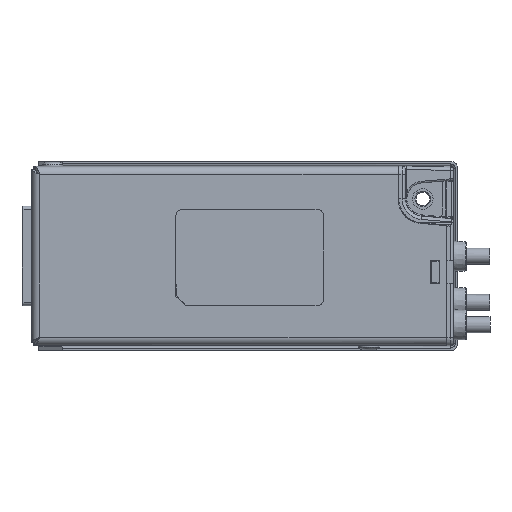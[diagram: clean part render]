
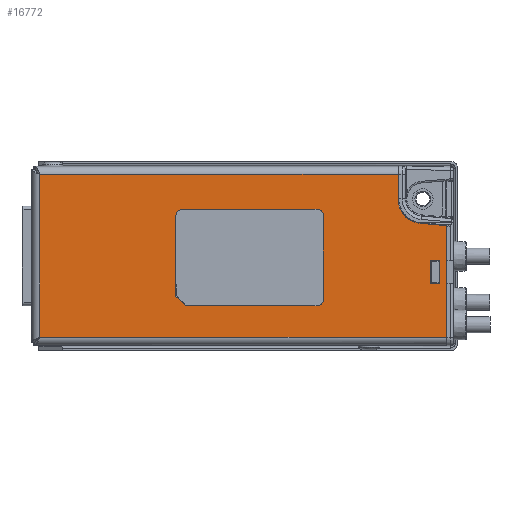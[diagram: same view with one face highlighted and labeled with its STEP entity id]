
A CAD part, top view. The second image highlights one B-rep face of the part: STEP entity #16772.
In plain terms, the highlighted planar face has unit normal (0, 0, 1).
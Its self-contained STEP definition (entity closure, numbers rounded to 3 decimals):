
#959=FACE_BOUND('',#3392,.T.);
#960=FACE_BOUND('',#3393,.T.);
#1482=CIRCLE('',#18302,2.);
#1483=CIRCLE('',#18305,2.);
#1484=CIRCLE('',#18308,2.);
#1501=CIRCLE('',#18416,7.5);
#2412=FACE_OUTER_BOUND('',#3391,.T.);
#3391=EDGE_LOOP('',(#14312,#14313,#14314,#14315,#14316,#14317,#14318,#14319));
#3392=EDGE_LOOP('',(#14320,#14321,#14322,#14323));
#3393=EDGE_LOOP('',(#14324,#14325,#14326,#14327,#14328,#14329,#14330,#14331,
#14332,#14333));
#4557=LINE('',#30213,#5925);
#4560=LINE('',#30219,#5928);
#4562=LINE('',#30224,#5930);
#4566=LINE('',#30233,#5934);
#4569=LINE('',#30241,#5937);
#4609=LINE('',#30327,#5977);
#4612=LINE('',#30331,#5980);
#4722=LINE('',#30596,#6090);
#4725=LINE('',#30692,#6093);
#4729=LINE('',#30780,#6097);
#4772=LINE('',#31061,#6140);
#4773=LINE('',#31106,#6141);
#4774=LINE('',#31108,#6142);
#4775=LINE('',#31111,#6143);
#4776=LINE('',#31114,#6144);
#4777=LINE('',#31116,#6145);
#4778=LINE('',#31118,#6146);
#4779=LINE('',#31119,#6147);
#5925=VECTOR('',#22536,10.);
#5928=VECTOR('',#22541,10.);
#5930=VECTOR('',#22545,10.);
#5934=VECTOR('',#22555,10.);
#5937=VECTOR('',#22564,10.);
#5977=VECTOR('',#22624,10.);
#5980=VECTOR('',#22629,10.);
#6090=VECTOR('',#22835,10.);
#6093=VECTOR('',#22842,10.);
#6097=VECTOR('',#22848,10.);
#6140=VECTOR('',#22979,10.);
#6141=VECTOR('',#22986,10.);
#6142=VECTOR('',#22987,10.);
#6143=VECTOR('',#22990,10.);
#6144=VECTOR('',#22991,10.);
#6145=VECTOR('',#22992,10.);
#6146=VECTOR('',#22993,10.);
#6147=VECTOR('',#22994,10.);
#7415=VERTEX_POINT('',#30209);
#7416=VERTEX_POINT('',#30211);
#7417=VERTEX_POINT('',#30215);
#7418=VERTEX_POINT('',#30217);
#7419=VERTEX_POINT('',#30221);
#7420=VERTEX_POINT('',#30223);
#7421=VERTEX_POINT('',#30227);
#7422=VERTEX_POINT('',#30231);
#7423=VERTEX_POINT('',#30235);
#7424=VERTEX_POINT('',#30239);
#7454=VERTEX_POINT('',#30309);
#7523=VERTEX_POINT('',#30582);
#7532=VERTEX_POINT('',#30691);
#7536=VERTEX_POINT('',#30779);
#7566=VERTEX_POINT('',#31059);
#7568=VERTEX_POINT('',#31105);
#7569=VERTEX_POINT('',#31107);
#7570=VERTEX_POINT('',#31109);
#7571=VERTEX_POINT('',#31112);
#7572=VERTEX_POINT('',#31113);
#7573=VERTEX_POINT('',#31115);
#7574=VERTEX_POINT('',#31117);
#9596=EDGE_CURVE('',#7416,#7415,#4557,.T.);
#9599=EDGE_CURVE('',#7418,#7416,#4560,.T.);
#9601=EDGE_CURVE('',#7419,#7420,#4562,.T.);
#9604=EDGE_CURVE('',#7421,#7419,#1482,.T.);
#9606=EDGE_CURVE('',#7422,#7421,#4566,.T.);
#9608=EDGE_CURVE('',#7423,#7422,#1483,.T.);
#9610=EDGE_CURVE('',#7424,#7423,#4569,.T.);
#9611=EDGE_CURVE('',#7415,#7424,#1484,.T.);
#9654=EDGE_CURVE('',#7417,#7418,#4609,.T.);
#9657=EDGE_CURVE('',#7420,#7417,#4612,.T.);
#9771=EDGE_CURVE('',#7523,#7454,#4722,.T.);
#9781=EDGE_CURVE('',#7532,#7523,#4725,.T.);
#9789=EDGE_CURVE('',#7536,#7532,#4729,.T.);
#9856=EDGE_CURVE('',#7566,#7454,#4772,.T.);
#9858=EDGE_CURVE('',#7568,#7566,#4773,.T.);
#9859=EDGE_CURVE('',#7568,#7569,#4774,.T.);
#9860=EDGE_CURVE('',#7569,#7570,#1501,.T.);
#9861=EDGE_CURVE('',#7570,#7536,#4775,.T.);
#9862=EDGE_CURVE('',#7571,#7572,#4776,.T.);
#9863=EDGE_CURVE('',#7572,#7573,#4777,.T.);
#9864=EDGE_CURVE('',#7573,#7574,#4778,.T.);
#9865=EDGE_CURVE('',#7574,#7571,#4779,.T.);
#14312=ORIENTED_EDGE('',*,*,#9781,.T.);
#14313=ORIENTED_EDGE('',*,*,#9771,.T.);
#14314=ORIENTED_EDGE('',*,*,#9856,.F.);
#14315=ORIENTED_EDGE('',*,*,#9858,.F.);
#14316=ORIENTED_EDGE('',*,*,#9859,.T.);
#14317=ORIENTED_EDGE('',*,*,#9860,.T.);
#14318=ORIENTED_EDGE('',*,*,#9861,.T.);
#14319=ORIENTED_EDGE('',*,*,#9789,.T.);
#14320=ORIENTED_EDGE('',*,*,#9862,.T.);
#14321=ORIENTED_EDGE('',*,*,#9863,.T.);
#14322=ORIENTED_EDGE('',*,*,#9864,.T.);
#14323=ORIENTED_EDGE('',*,*,#9865,.T.);
#14324=ORIENTED_EDGE('',*,*,#9601,.F.);
#14325=ORIENTED_EDGE('',*,*,#9604,.F.);
#14326=ORIENTED_EDGE('',*,*,#9606,.F.);
#14327=ORIENTED_EDGE('',*,*,#9608,.F.);
#14328=ORIENTED_EDGE('',*,*,#9610,.F.);
#14329=ORIENTED_EDGE('',*,*,#9611,.F.);
#14330=ORIENTED_EDGE('',*,*,#9596,.F.);
#14331=ORIENTED_EDGE('',*,*,#9599,.F.);
#14332=ORIENTED_EDGE('',*,*,#9654,.F.);
#14333=ORIENTED_EDGE('',*,*,#9657,.F.);
#14953=PLANE('',#18415);
#16772=ADVANCED_FACE('',(#2412,#959,#960),#14953,.T.);
#18302=AXIS2_PLACEMENT_3D('',#30229,#22550,#22551);
#18305=AXIS2_PLACEMENT_3D('',#30237,#22559,#22560);
#18308=AXIS2_PLACEMENT_3D('',#30243,#22567,#22568);
#18415=AXIS2_PLACEMENT_3D('',#31104,#22984,#22985);
#18416=AXIS2_PLACEMENT_3D('',#31110,#22988,#22989);
#22536=DIRECTION('',(1.,0.,0.));
#22541=DIRECTION('',(0.707,-0.707,0.));
#22545=DIRECTION('',(0.,-1.,0.));
#22550=DIRECTION('center_axis',(0.,0.,
1.));
#22551=DIRECTION('ref_axis',(-0.707,0.707,0.));
#22555=DIRECTION('',(-1.,0.,0.));
#22559=DIRECTION('center_axis',(0.,0.,
1.));
#22560=DIRECTION('ref_axis',(0.707,0.707,0.));
#22564=DIRECTION('',(0.,1.,0.));
#22567=DIRECTION('center_axis',(0.,0.,
1.));
#22568=DIRECTION('ref_axis',(0.707,-0.707,0.));
#22624=DIRECTION('',(0.707,-0.707,0.));
#22629=DIRECTION('',(0.,-1.,0.));
#22835=DIRECTION('',(1.,0.,0.));
#22842=DIRECTION('',(0.,-1.,0.));
#22848=DIRECTION('',(-1.,0.,0.));
#22979=DIRECTION('',(0.,-1.,0.));
#22984=DIRECTION('center_axis',(0.,0.,
1.));
#22985=DIRECTION('ref_axis',(0.,-1.,0.));
#22986=DIRECTION('',(0.676,-0.737,0.));
#22987=DIRECTION('',(-0.996,0.087,0.));
#22988=DIRECTION('center_axis',(0.,0.,
-1.));
#22989=DIRECTION('ref_axis',(-1.,0.,0.));
#22990=DIRECTION('',(0.,1.,0.));
#22991=DIRECTION('',(-1.,0.,0.));
#22992=DIRECTION('',(0.,1.,0.));
#22993=DIRECTION('',(1.,0.,0.));
#22994=DIRECTION('',(0.,-1.,0.));
#30209=CARTESIAN_POINT('',(3.9,-15.525,34.9));
#30211=CARTESIAN_POINT('',(-37.1,-15.525,34.9));
#30213=CARTESIAN_POINT('',(-40.1,-15.525,34.9));
#30215=CARTESIAN_POINT('',(-40.1,-12.525,34.9));
#30217=CARTESIAN_POINT('',(-37.625,-15.,34.9));
#30219=CARTESIAN_POINT('',(-36.6,-16.025,34.9));
#30221=CARTESIAN_POINT('',(-40.1,12.475,34.9));
#30223=CARTESIAN_POINT('',(-40.1,-9.025,34.9));
#30224=CARTESIAN_POINT('',(-40.1,14.475,34.9));
#30227=CARTESIAN_POINT('',(-38.1,14.475,34.9));
#30229=CARTESIAN_POINT('Origin',(-38.1,12.475,34.9));
#30231=CARTESIAN_POINT('',(3.9,14.475,34.9));
#30233=CARTESIAN_POINT('',(5.9,14.475,34.9));
#30235=CARTESIAN_POINT('',(5.9,12.475,34.9));
#30237=CARTESIAN_POINT('Origin',(3.9,12.475,34.9));
#30239=CARTESIAN_POINT('',(5.9,-13.525,34.9));
#30241=CARTESIAN_POINT('',(5.9,-15.525,34.9));
#30243=CARTESIAN_POINT('Origin',(3.9,-13.525,34.9));
#30309=CARTESIAN_POINT('',(44.2,-25.4,34.9));
#30327=CARTESIAN_POINT('',(-36.6,-16.025,34.9));
#30331=CARTESIAN_POINT('',(-40.1,14.475,34.9));
#30582=CARTESIAN_POINT('',(-82.6,-25.4,34.9));
#30596=CARTESIAN_POINT('',(-52.775,-25.4,34.9));
#30691=CARTESIAN_POINT('',(-82.6,25.4,34.9));
#30692=CARTESIAN_POINT('',(-82.6,-12.7,34.9));
#30779=CARTESIAN_POINT('',(29.2,25.4,34.9));
#30780=CARTESIAN_POINT('',(11.875,25.4,34.9));
#31059=CARTESIAN_POINT('',(44.2,8.915,34.9));
#31061=CARTESIAN_POINT('',(44.2,27.9,34.9));
#31104=CARTESIAN_POINT('Origin',(-20.45,0.,
34.9));
#31105=CARTESIAN_POINT('',(43.702,9.459,34.9));
#31106=CARTESIAN_POINT('',(31.542,22.729,34.9));
#31107=CARTESIAN_POINT('',(36.046,10.129,34.9));
#31108=CARTESIAN_POINT('',(12.529,12.186,34.9));
#31109=CARTESIAN_POINT('',(29.2,17.6,34.9));
#31110=CARTESIAN_POINT('Origin',(36.7,17.6,34.9));
#31111=CARTESIAN_POINT('',(29.2,8.8,34.9));
#31112=CARTESIAN_POINT('',(42.2,-8.5,34.9));
#31113=CARTESIAN_POINT('',(39.2,-8.5,34.9));
#31114=CARTESIAN_POINT('',(10.875,-8.5,34.9));
#31115=CARTESIAN_POINT('',(39.2,-1.5,34.9));
#31116=CARTESIAN_POINT('',(39.2,-4.25,34.9));
#31117=CARTESIAN_POINT('',(42.2,-1.5,34.9));
#31118=CARTESIAN_POINT('',(9.375,-1.5,34.9));
#31119=CARTESIAN_POINT('',(42.2,-0.75,34.9));
